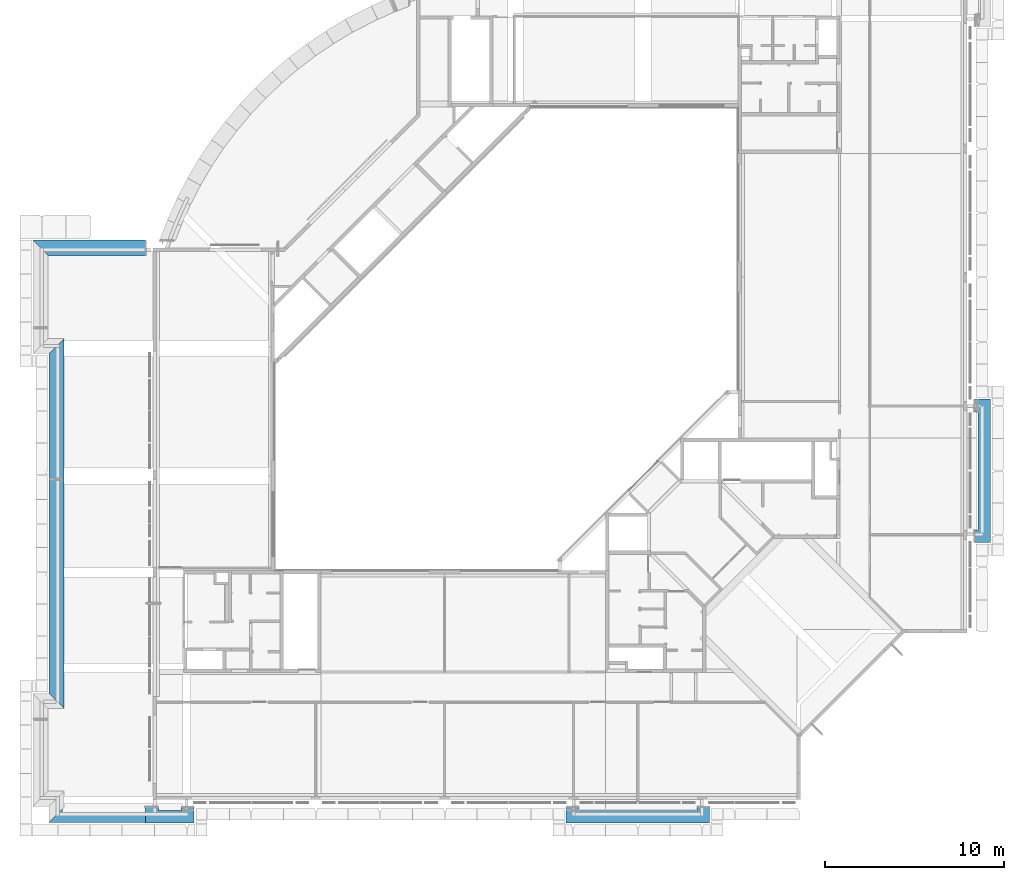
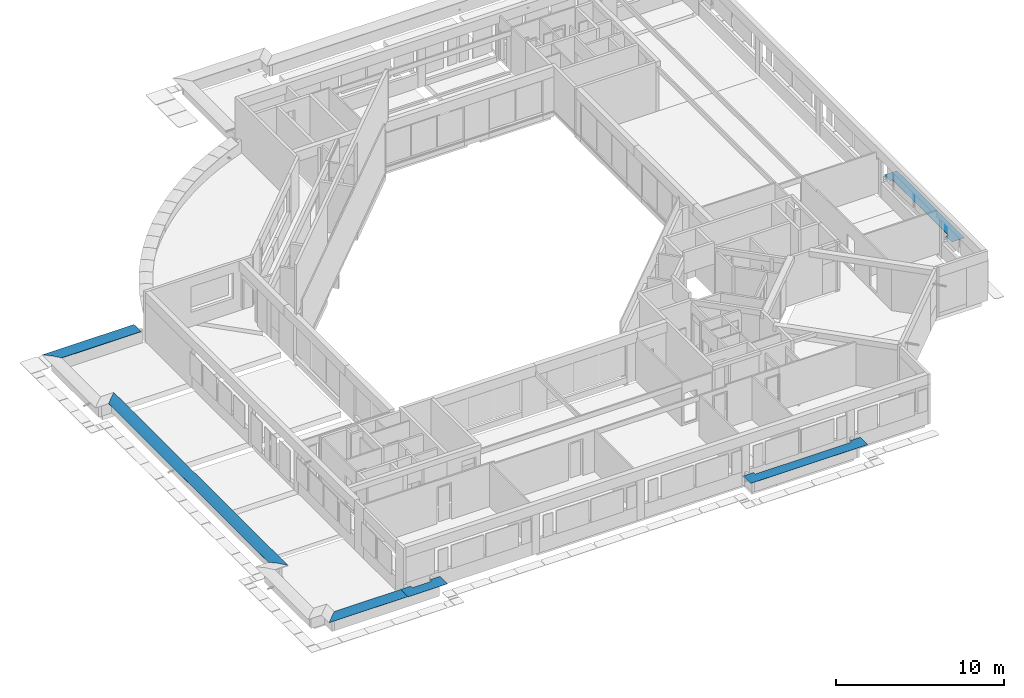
# One storey, part 30 of 38: 6 discrete accessories.
"""IFC4X3_ADD2 building model written with IfcOpenShell, lengths in millimetres."""

import ifcopenshell
import ifcopenshell.guid

model = None  # the IFC model being written
_history = None  # IfcOwnerHistory: only IFC2X3 demands one
_inside = {}  # id of a spatial element -> (the spatial element, [elements in it])
_under = {}  # id of a project, library or spatial element -> (it, [spatial elements below it])
_declared = {}  # id of a project -> (the project, [libraries it declares])
_typed = {}  # id of a type object -> (the type object, [elements of that type])
_made_of = {}  # id of a material, layer set ... -> (it, [elements and type objects made of it])


def new_model(schema):
    """Start an empty IFC model of exactly this schema.

    Asked for "IFC4X3", IfcOpenShell would pick the latest addendum, in which some entities
    have other attributes; the version numbers below select the first issue.
    IFC2X3 requires an IfcOwnerHistory on every rooted entity: one is made here for all.
    """
    global model, _history
    if schema == "IFC4X3":
        model = ifcopenshell.file(schema_version=(4, 3, 0, 0))
    else:
        model = ifcopenshell.file(schema=schema)
    _inside.clear()
    _under.clear()
    _declared.clear()
    _typed.clear()
    _made_of.clear()
    _history = None
    if model.schema == "IFC2X3":
        org = make("IfcOrganization", Name="unknown")
        user = make(
            "IfcPersonAndOrganization",
            ThePerson=make("IfcPerson", FamilyName="unknown"),
            TheOrganization=org,
        )
        app = make(
            "IfcApplication",
            ApplicationDeveloper=org,
            Version="unknown",
            ApplicationFullName="unknown",
            ApplicationIdentifier="unknown",
        )
        _history = make(
            "IfcOwnerHistory",
            OwningUser=user,
            OwningApplication=app,
            ChangeAction="ADDED",
            CreationDate=0,
        )
    return model


def make(cls, **values):
    """One entity of the class cls with the attributes given. An attribute that is None is left unset."""
    return model.create_entity(
        cls, **{name: value for name, value in values.items() if value is not None}
    )


def rooted(cls, **values):
    """An entity with a GlobalId (a new one), such as an element, a storey or a relation."""
    return make(cls, GlobalId=ifcopenshell.guid.new(), OwnerHistory=_history, **values)


def si_unit(unit_type, name, prefix=None):
    """IfcSIUnit, for example si_unit("LENGTHUNIT", "METRE", prefix="MILLI")."""
    return make("IfcSIUnit", UnitType=unit_type, Prefix=prefix, Name=name)


def assignment(units):
    """IfcUnitAssignment: the units of a project."""
    return None if units is None else make("IfcUnitAssignment", Units=units)


def point(xyz):
    """IfcCartesianPoint."""
    return None if xyz is None else make("IfcCartesianPoint", Coordinates=xyz)


def direction(xyz):
    """IfcDirection."""
    return None if xyz is None else make("IfcDirection", DirectionRatios=xyz)


def frame(location, z_axis=None, x_axis=None):
    """IfcAxis2Placement3D, a coordinate frame: its origin and axes. An axis left out is left unset."""
    return make(
        "IfcAxis2Placement3D",
        Location=point(location),
        Axis=direction(z_axis),
        RefDirection=direction(x_axis),
    )


def origin_with_axes():
    """The frame at (0, 0, 0) with the z axis (0, 0, 1) and the x axis (1, 0, 0) written out."""
    return frame((0.0, 0.0, 0.0), z_axis=(0.0, 0.0, 1.0), x_axis=(1.0, 0.0, 0.0))


def place(relative_to, where):
    """IfcLocalPlacement: puts the frame where relative to a parent placement (None: the world)."""
    return make(
        "IfcLocalPlacement", PlacementRelTo=relative_to, RelativePlacement=where
    )


def context(
    kind, dimensions, precision=None, world=None, true_north=None, identifier=None
):
    """IfcGeometricRepresentationContext, for example the 3D "Model" context."""
    return make(
        "IfcGeometricRepresentationContext",
        ContextIdentifier=identifier,
        ContextType=kind,
        CoordinateSpaceDimension=dimensions,
        Precision=precision,
        WorldCoordinateSystem=world,
        TrueNorth=true_north,
    )


def subcontext(parent, identifier, kind, view, scale=None):
    """IfcGeometricRepresentationSubContext, for example "Body" below "Model"."""
    return make(
        "IfcGeometricRepresentationSubContext",
        ContextIdentifier=identifier,
        ContextType=kind,
        ParentContext=parent,
        TargetScale=scale,
        TargetView=view,
    )


def project(units=None, contexts=None):
    """IfcProject with its units and contexts."""
    return rooted(
        "IfcProject",
        Name="project",
        RepresentationContexts=contexts,
        UnitsInContext=assignment(units),
    )


def spatial(cls, under=None, at=None, **own):
    """A site, building, storey or space (cls), placed at a placement, below another one or the project."""
    s = rooted(cls, ObjectPlacement=at, **own)
    if under is not None:
        _under.setdefault(under.id(), (under, []))[1].append(s)
    return s


def point_list(points):
    """IfcCartesianPointList2D or 3D."""
    cls = (
        "IfcCartesianPointList2D" if len(points[0]) == 2 else "IfcCartesianPointList3D"
    )
    return make(cls, CoordList=points)


def polygons(points, faces, closed=None, point_numbers=None):
    """IfcPolygonalFaceSet: a face is its outer loop, then its inner loops; points numbered from 1."""
    made = []
    for loops in faces:
        if len(loops) == 1:
            made.append(make("IfcIndexedPolygonalFace", CoordIndex=loops[0]))
        else:
            made.append(
                make(
                    "IfcIndexedPolygonalFaceWithVoids",
                    CoordIndex=loops[0],
                    InnerCoordIndices=loops[1:],
                )
            )
    return make(
        "IfcPolygonalFaceSet",
        Coordinates=point_list(points),
        Closed=closed,
        Faces=made,
        PnIndex=point_numbers,
    )


def shape(context_of_items, identifier, shape_type, items):
    """IfcShapeRepresentation: the items that make up one representation, for example the "Body"."""
    return make(
        "IfcShapeRepresentation",
        ContextOfItems=context_of_items,
        RepresentationIdentifier=identifier,
        RepresentationType=shape_type,
        Items=items,
    )


def source(mapping_origin, context_of_items, identifier, shape_type, items):
    """IfcRepresentationMap: a shape defined once, which mapped items show again and again."""
    return make(
        "IfcRepresentationMap",
        MappingOrigin=mapping_origin,
        MappedRepresentation=shape(context_of_items, identifier, shape_type, items),
    )


def transform(
    local_origin,
    x_axis=None,
    y_axis=None,
    z_axis=None,
    scale=None,
    scale2=None,
    scale3=None,
    uniform=True,
):
    """IfcCartesianTransformationOperator3D, or its non-uniform kind. x_axis, y_axis, z_axis: its Axis1, 2, 3."""
    if uniform:
        return make(
            "IfcCartesianTransformationOperator3D",
            Axis1=direction(x_axis),
            Axis2=direction(y_axis),
            LocalOrigin=point(local_origin),
            Scale=scale,
            Axis3=direction(z_axis),
        )
    return make(
        "IfcCartesianTransformationOperator3DnonUniform",
        Axis1=direction(x_axis),
        Axis2=direction(y_axis),
        LocalOrigin=point(local_origin),
        Scale=scale,
        Axis3=direction(z_axis),
        Scale2=scale2,
        Scale3=scale3,
    )


def mapped(mapping_source, mapping_target):
    """IfcMappedItem: shows the shape of a source again, moved by a transform."""
    return make(
        "IfcMappedItem", MappingSource=mapping_source, MappingTarget=mapping_target
    )


def material(Name=None, Category=None):
    """IfcMaterial."""
    return make("IfcMaterial", Name=Name, Category=Category)


def made_of(thing, what):
    """Note that an element or type object is made of a material, layer set ...; save() writes the relation."""
    if what is not None:
        _made_of.setdefault(what.id(), (what, []))[1].append(thing)
    return thing


def element(
    cls,
    number,
    at=None,
    inside=None,
    cuts=None,
    type_object=None,
    material=None,
    context=None,
    identifier="Body",
    shape_type=None,
    held_by="IfcProductDefinitionShape",
    body=None,
    shapes=None,
    **own,
):
    """One element of the class cls, such as IfcWall. Its Tag is "e" and its number.

    at: its placement. inside: the storey or other place that contains it. cuts: it is an
    opening in that element (IfcRelVoidsElement). A single representation is given by context,
    identifier, shape_type and body (its items); several are given by shapes. held_by: the class
    of the entity that holds the representations. save() writes the other relations.
    """
    e = rooted(cls, Tag="e%d" % number, ObjectPlacement=at, **own)
    if body is not None:
        shapes = [shape(context, identifier, shape_type, body)]
    if shapes is not None:
        e.Representation = make(held_by, Representations=shapes)
    if inside is not None:
        _inside.setdefault(inside.id(), (inside, []))[1].append(e)
    if cuts is not None:
        rooted(
            "IfcRelVoidsElement", RelatingBuildingElement=cuts, RelatedOpeningElement=e
        )
    if type_object is not None:
        _typed.setdefault(type_object.id(), (type_object, []))[1].append(e)
    return made_of(e, material)


def aggregate(whole, parts):
    """IfcRelAggregates: a whole, such as a stair, and the parts it consists of."""
    return rooted("IfcRelAggregates", RelatingObject=whole, RelatedObjects=parts)


def save(model, path):
    """Write the relations noted so far, then the file.

    IfcRelAggregates (storeys below a building ...), IfcRelContainedInSpatialStructure (elements
    in a storey), IfcRelDefinesByType, IfcRelAssociatesMaterial and IfcRelDeclares: one each for
    every whole, place, type object, material and project.
    """
    for whole, parts in _under.values():
        aggregate(whole, parts)
    for where, things in _inside.values():
        rooted(
            "IfcRelContainedInSpatialStructure",
            RelatedElements=things,
            RelatingStructure=where,
        )
    for kind, things in _typed.values():
        rooted("IfcRelDefinesByType", RelatedObjects=things, RelatingType=kind)
    for what, things in _made_of.values():
        rooted("IfcRelAssociatesMaterial", RelatedObjects=things, RelatingMaterial=what)
    for by, libraries in _declared.values():
        rooted("IfcRelDeclares", RelatingContext=by, RelatedDefinitions=libraries)
    model.write(path)


model = new_model("IFC4X3_ADD2")

# Units and contexts
model_context = context("Model", 3, precision=1e-05, world=origin_with_axes(), true_north=direction((0.0, 1.0)))
body_context = subcontext(model_context, "Body", "Model", "MODEL_VIEW")
ifc_project = project(units=[si_unit("LENGTHUNIT", "METRE", prefix="MILLI"), si_unit("AREAUNIT", "SQUARE_METRE"), si_unit("VOLUMEUNIT", "CUBIC_METRE"), si_unit("PLANEANGLEUNIT", "RADIAN"), si_unit("TIMEUNIT", "SECOND"), si_unit("MASSUNIT", "GRAM")], contexts=[model_context])

# Site, building, storey
site_placement = place(None, origin_with_axes())
site = spatial("IfcSite", under=ifc_project, at=site_placement, Name="Site", CompositionType="ELEMENT")
building_placement = place(site_placement, origin_with_axes())
building = spatial("IfcBuilding", under=site, at=building_placement, Name="IFC Building Story")
storey_placement = place(building_placement, frame((0.0, 0.0, 10800.0), z_axis=(0.0, 0.0, 1.0), x_axis=(1.0, 0.0, 0.0)))
storey = spatial("IfcBuildingStorey", under=building, at=storey_placement, Name="030", Elevation=10800.0)

# Discrete accessories
ifc_material = material(Name="BB_Metaal_Aluminium_Buitenschrijnwerk")
shared_shape_1 = source(origin_with_axes(), body_context, "Body", "Tessellation", [
    polygons([(-374.999999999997, -374.999999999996, 35.1750423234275), (-797.999999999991, -797.999999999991, -1.832662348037), (-797.999999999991, -797.999999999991, -25.1715728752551), (-791.414213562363, -791.414213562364, -18.5857864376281), (-789.99999999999, -789.999999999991, -20.0000000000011), (-799.999999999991, -799.999999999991, -30.0000000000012), (-799.999999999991, -799.999999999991, -2.8523960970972e-12), (-374.999999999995, -374.999999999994, 37.1826819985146), (50.0000000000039, 50.0000000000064, -2.87523752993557e-12), (30.0000000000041, 30.0000000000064, -30.0000000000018), (30.0000000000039, 30.0000000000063, -20.0000000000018), (32.0000000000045, 32.0000000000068, -20.0000000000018), (32.0000000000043, 32.0000000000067, -23.3944487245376), (46.4641064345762, 46.4641064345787, -1.69828907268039), (19033.5358935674, 46.4641064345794, -1.69828907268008), (19048.0000000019, 32.0000000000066, -23.3944487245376), (19048.0000000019, 32.0000000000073, -20.0000000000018), (19050.0000000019, 30.0000000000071, -20.0000000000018), (19050.0000000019, 30.0000000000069, -30.0000000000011), (19030.000000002, 50.0000000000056, -3.06354965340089e-12), (19455.0000000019, -374.999999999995, 37.1826819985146), (19880.0000000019, -799.999999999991, -2.78471690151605e-12), (19880.0000000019, -799.999999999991, -30.0), (19870.0000000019, -789.999999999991, -20.0000000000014), (19871.4142135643, -791.414213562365, -18.5857864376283), (19878.0000000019, -797.999999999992, -25.1715728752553), (19878.0000000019, -797.999999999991, -1.83266234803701), (19455.0000000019, -374.999999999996, 35.1750423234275)], [[[3, 4, 5]], [[3, 5, 6]], [[6, 7, 2]], [[6, 2, 3]], [[7, 8, 1]], [[7, 1, 2]], [[14, 1, 8]], [[14, 8, 9]], [[9, 10, 13]], [[9, 13, 14]], [[10, 11, 13]], [[11, 12, 13]], [[16, 17, 18]], [[16, 18, 19]], [[19, 20, 15]], [[19, 15, 16]], [[28, 15, 20]], [[28, 20, 21]], [[21, 22, 27]], [[21, 27, 28]], [[22, 23, 26]], [[22, 26, 27]], [[23, 24, 25]], [[23, 25, 26]], [[14, 15, 28, 1]], [[12, 17, 16, 13]], [[13, 16, 15, 14]], [[10, 19, 18, 11]], [[8, 21, 20, 9]], [[9, 20, 19, 10]], [[7, 22, 21, 8]], [[11, 18, 17, 12]], [[1, 28, 27, 2]], [[6, 23, 22, 7]], [[5, 24, 23, 6]], [[4, 25, 24, 5]], [[3, 26, 25, 4]], [[2, 27, 26, 3]]]),
])
discrete_accessory_1_placement = place(storey_placement, frame((-51150.0, 5790.0, 830.0), z_axis=(0.0, 0.0, 1.0), x_axis=(0.0, 1.0, 0.0)))
element("IfcDiscreteAccessory", 1, at=discrete_accessory_1_placement, inside=storey, material=ifc_material, Name="BB_05.10.23#02_AluminiumMuurafdek, 850 mm_GLI:XX_Geen", ObjectType="BB_05.10.23#02_AluminiumMuurafdek, 850 mm_GLI:XX_Geen", PredefinedType="USERDEFINED", context=body_context, shape_type="MappedRepresentation", body=[
    mapped(shared_shape_1, transform((0.0, 0.0, 0.0))),
])
shared_shape_2 = source(origin_with_axes(), body_context, "Body", "Tessellation", [
    polygons([(5390.0, 799.999999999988, 0.0), (5390.0, -50.0, -2.52086804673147e-12), (5370.0, -30.0000000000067, -30.0), (5370.0, 779.999999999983, -30.0), (4965.00000000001, 374.999999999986, 37.1826819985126), (5386.46410643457, 796.464106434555, -1.6982890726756), (5386.46410643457, -46.4641064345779, -1.69828907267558), (4965.00000000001, 374.999999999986, 35.1750423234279), (5372.0, 781.999999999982, -23.3944487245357), (5372.0, -32.0000000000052, -23.3944487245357), (5372.0, 781.999999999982, -19.895184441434), (5372.0, -32.000000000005, -19.895184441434), (5370.0, 779.999999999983, -19.895184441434), (5370.0, -30.000000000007, -19.895184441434)], [[[1, 2, 3, 4]], [[2, 1, 5]], [[6, 7, 8]], [[7, 6, 9, 10]], [[10, 9, 11, 12]], [[12, 11, 13, 14]], [[4, 3, 14, 13]], [[10, 12, 14]], [[10, 14, 3]], [[3, 2, 7]], [[3, 7, 10]], [[2, 5, 8]], [[2, 8, 7]], [[6, 8, 5]], [[6, 5, 1]], [[1, 4, 9]], [[1, 9, 6]], [[4, 13, 9]], [[13, 11, 9]]]),
    polygons([(5390.0, -50.0000000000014, 0.0), (-1.08286712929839e-12, -50.0000000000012, 0.0), (19.9999999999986, -30.0000000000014, -30.0), (5370.0, -30.0000000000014, -30.0), (4964.99999999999, 375.0, 37.1826819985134), (425.000000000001, 375.0, 37.1826819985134), (3.53589356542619, -46.4641064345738, -1.69828907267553), (425.000000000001, 375.0, 35.1750423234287), (4964.99999999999, 375.0, 35.1750423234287), (5386.46410643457, -46.4641064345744, -1.69828907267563), (17.9999999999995, -32.0, -23.3944487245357), (5372.0, -32.0, -23.3944487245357), (17.9999999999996, -32.0, -19.895184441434), (5372.0, -32.0, -19.895184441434), (19.9999999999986, -30.0000000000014, -19.895184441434), (5370.0, -30.0000000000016, -19.895184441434)], [[[1, 2, 3, 4]], [[2, 1, 5, 6]], [[7, 8, 9, 10]], [[11, 7, 10, 12]], [[13, 11, 12, 14]], [[15, 13, 14, 16]], [[3, 15, 16, 4]], [[11, 13, 15]], [[11, 15, 3]], [[3, 2, 7]], [[3, 7, 11]], [[2, 6, 8]], [[2, 8, 7]], [[10, 9, 5]], [[10, 5, 1]], [[1, 4, 12]], [[1, 12, 10]], [[4, 16, 12]], [[16, 14, 12]], [[8, 6, 5, 9]]]),
    polygons([(425.000000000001, 375.0, 37.1826819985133), (850.000000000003, 800.000000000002, 0.0), (850.000000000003, 800.000000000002, -30.0), (840.000000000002, 790.000000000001, -20.0), (841.414213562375, 791.414213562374, -18.5857864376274), (848.000000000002, 798.000000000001, -25.1715728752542), (848.000000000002, 798.000000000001, -1.83266234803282), (425.000000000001, 375.0, 35.1750423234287), (5390.00000000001, 799.999999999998, 0.0), (4965.00000000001, 374.999999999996, 37.1826819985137), (5388.00000000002, 798.000000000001, -1.8326623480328), (4965.00000000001, 374.999999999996, 35.1750423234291), (5388.00000000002, 798.000000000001, -25.171572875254), (5381.4142135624, 791.414213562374, -18.5857864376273), (5380.00000000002, 790.000000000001, -20.0), (5390.00000000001, 799.999999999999, -29.9999999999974)], [[[7, 8, 1]], [[7, 1, 2]], [[2, 3, 6]], [[2, 6, 7]], [[3, 4, 5]], [[3, 5, 6]], [[9, 2, 1, 10]], [[8, 7, 11, 12]], [[13, 14, 15]], [[13, 15, 16]], [[16, 9, 11]], [[16, 11, 13]], [[9, 10, 12]], [[9, 12, 11]], [[7, 6, 13, 11]], [[6, 5, 14, 13]], [[5, 4, 15, 14]], [[3, 16, 15, 4]], [[2, 9, 16, 3]], [[1, 8, 12, 10]]]),
])
discrete_accessory_2_placement = place(storey_placement, frame((-51200.0, -1320.0, 830.0), z_axis=(0.0, 0.0, 1.0), x_axis=(1.0, 0.0, 0.0)))
element("IfcDiscreteAccessory", 2, at=discrete_accessory_2_placement, inside=storey, material=ifc_material, Name="BB_05.10.23#02_AluminiumMuurafdek eindstuk, 850 mm_GMO:XX_Geen", ObjectType="BB_05.10.23#02_AluminiumMuurafdek eindstuk, 850 mm_GMO:XX_Geen", PredefinedType="USERDEFINED", context=body_context, shape_type="MappedRepresentation", body=[
    mapped(shared_shape_2, transform((0.0, 0.0, 0.0))),
])
shared_shape_3 = source(origin_with_axes(), body_context, "Body", "Tessellation", [
    polygons([(6279.99999999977, -799.999999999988, 0.0), (6259.99999999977, -779.999999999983, -30.0), (6259.99999999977, 30.0000000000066, -30.0), (6279.99999999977, 50.0, -2.46728868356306e-12), (5854.99999999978, -374.999999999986, 37.1826819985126), (6276.46410643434, -796.464106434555, -1.69828907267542), (5854.99999999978, -374.999999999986, 35.1750423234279), (6276.46410643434, 46.4641064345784, -1.69828907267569), (6261.99999999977, 32.0000000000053, -23.3944487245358), (6261.99999999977, -781.999999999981, -23.3944487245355), (6261.99999999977, 32.0000000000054, -19.895184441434), (6261.99999999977, -781.999999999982, -19.895184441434), (6259.99999999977, 30.000000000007, -19.895184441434), (6259.99999999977, -779.999999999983, -19.895184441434)], [[[1, 2, 3, 4]], [[4, 5, 1]], [[6, 7, 8]], [[8, 9, 10, 6]], [[9, 11, 12, 10]], [[11, 13, 14, 12]], [[2, 14, 13, 3]], [[8, 7, 5]], [[8, 5, 4]], [[4, 3, 9]], [[4, 9, 8]], [[3, 13, 9]], [[13, 11, 9]], [[10, 12, 14]], [[10, 14, 2]], [[2, 1, 6]], [[2, 6, 10]], [[1, 5, 7]], [[1, 7, 6]]]),
    polygons([(6279.99999999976, 50.0000000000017, 0.0), (6259.99999999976, 30.0000000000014, -30.0), (19.9999999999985, 30.0000000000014, -30.0), (-1.21822552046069e-12, 50.0000000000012, 0.0), (425.000000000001, -375.0, 37.1826819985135), (5854.99999999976, -375.0, 37.1826819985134), (3.53589356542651, 46.4641064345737, -1.69828907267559), (6276.46410643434, 46.464106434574, -1.6982890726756), (5854.99999999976, -375.0, 35.1750423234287), (425.000000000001, -375.0, 35.1750423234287), (17.9999999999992, 32.0, -23.3944487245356), (6261.99999999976, 32.0, -23.3944487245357), (17.9999999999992, 32.0, -19.895184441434), (6261.99999999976, 32.0, -19.895184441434), (19.9999999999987, 30.0000000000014, -19.895184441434), (6259.99999999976, 30.0000000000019, -19.895184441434)], [[[1, 2, 3, 4]], [[4, 5, 6, 1]], [[7, 8, 9, 10]], [[11, 12, 8, 7]], [[13, 14, 12, 11]], [[15, 16, 14, 13]], [[3, 2, 16, 15]], [[7, 10, 5]], [[7, 5, 4]], [[4, 3, 11]], [[4, 11, 7]], [[3, 15, 11]], [[15, 13, 11]], [[12, 14, 16]], [[12, 16, 2]], [[2, 1, 8]], [[2, 8, 12]], [[1, 6, 9]], [[1, 9, 8]], [[10, 9, 6, 5]]]),
    polygons([(425.000000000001, -375.0, 37.1826819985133), (425.000000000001, -375.0, 35.1750423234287), (848.000000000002, -798.000000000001, -1.83266234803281), (848.000000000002, -798.000000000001, -25.1715728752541), (841.414213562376, -791.414213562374, -18.5857864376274), (840.000000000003, -790.000000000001, -20.0), (850.000000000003, -800.000000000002, -29.9999999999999), (850.000000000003, -800.000000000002, 0.0), (6279.99999999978, -799.999999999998, 0.0), (5854.99999999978, -374.999999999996, 37.1826819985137), (5854.99999999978, -374.999999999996, 35.1750423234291), (6277.99999999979, -798.000000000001, -1.8326623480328), (6279.99999999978, -799.999999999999, -29.9999999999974), (6269.99999999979, -790.000000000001, -20.0), (6271.41421356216, -791.414213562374, -18.5857864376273), (6277.99999999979, -798.000000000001, -25.171572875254)], [[[4, 5, 6]], [[4, 6, 7]], [[7, 8, 3]], [[7, 3, 4]], [[8, 1, 2]], [[8, 2, 3]], [[9, 10, 1, 8]], [[2, 11, 12, 3]], [[12, 11, 10]], [[12, 10, 9]], [[9, 13, 16]], [[9, 16, 12]], [[13, 14, 15]], [[13, 15, 16]], [[3, 12, 16, 4]], [[4, 16, 15, 5]], [[5, 15, 14, 6]], [[7, 6, 14, 13]], [[8, 7, 13, 9]], [[1, 10, 11, 2]]]),
])
discrete_accessory_3_placement = place(storey_placement, frame((-52090.0, 31110.0, 830.0), z_axis=(0.0, 0.0, 1.0), x_axis=(1.0, 0.0, 0.0)))
element("IfcDiscreteAccessory", 3, at=discrete_accessory_3_placement, inside=storey, material=ifc_material, Name="BB_05.10.23#02_AluminiumMuurafdek eindstuk, 850 mm_GMO:XX_Geen", ObjectType="BB_05.10.23#02_AluminiumMuurafdek eindstuk, 850 mm_GMO:XX_Geen", PredefinedType="USERDEFINED", context=body_context, shape_type="MappedRepresentation", body=[
    mapped(shared_shape_3, transform((0.0, 0.0, 0.0))),
])
shared_shape_4 = source(origin_with_axes(), body_context, "Body", "Tessellation", [
    polygons([(2008.53589356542, 828.964106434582, -1.69828907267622), (2357.5, 480.000000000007, 28.8321142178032), (2357.49999999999, 302.500000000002, 28.8321142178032), (2008.53589356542, 302.500000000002, -1.69828907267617), (2022.99999999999, 814.500000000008, -23.3944487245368), (2022.99999999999, 302.500000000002, -23.3944487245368), (2022.99999999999, 814.500000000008, -19.8951844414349), (2022.99999999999, 302.500000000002, -19.8951844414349), (2024.99999999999, 812.500000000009, -19.8951844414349), (2690.0, 812.500000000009, -19.8951844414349), (2690.0, -30.000000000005, -19.8951844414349), (2692.0, -32.000000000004, -19.8951844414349), (2692.0, 814.500000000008, -19.8951844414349), (2024.99999999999, 302.500000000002, -19.8951844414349), (2024.99999999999, 812.500000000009, -30.0), (2024.99999999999, 302.500000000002, -30.0), (2005.0, 832.500000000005, 0.0), (2005.0, 302.500000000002, 0.0), (2357.5, 480.000000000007, 30.8397538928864), (2357.49999999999, 302.500000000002, 30.8397538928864), (2706.46410643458, 828.964106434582, -1.69828907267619), (2692.0, 814.500000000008, -23.3944487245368), (2690.0, 812.500000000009, -30.0), (2710.0, 832.500000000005, 0.0), (2706.46410643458, -46.4641064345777, -1.6982890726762), (2357.5, 302.5, 28.8321142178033), (2692.0, -32.0000000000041, -23.3944487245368), (2690.0, -30.000000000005, -30.0), (2710.0, -49.9999999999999, 0.0), (2357.5, 302.5, 30.8397538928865)], [[[1, 2, 3, 4]], [[5, 1, 4, 6]], [[7, 5, 6, 8]], [[10, 11, 12]], [[10, 12, 13]], [[13, 7, 9]], [[13, 9, 10]], [[7, 8, 14]], [[7, 14, 9]], [[15, 9, 14, 16]], [[17, 15, 16, 18]], [[19, 17, 18, 20]], [[2, 19, 20, 3]], [[2, 1, 21]], [[1, 5, 22, 21]], [[5, 7, 13, 22]], [[10, 9, 15, 23]], [[15, 17, 24, 23]], [[17, 19, 24]], [[2, 21, 25, 26]], [[21, 22, 27, 25]], [[22, 13, 12, 27]], [[10, 23, 28, 11]], [[23, 24, 29, 28]], [[24, 19, 30, 29]], [[19, 2, 26, 30]], [[4, 3, 20]], [[4, 20, 18]], [[6, 4, 18]], [[6, 18, 16]], [[16, 14, 6]], [[14, 8, 6]], [[27, 12, 11]], [[27, 11, 28]], [[28, 29, 25]], [[28, 25, 27]], [[29, 30, 26]], [[29, 26, 25]]]),
    polygons([(352.500000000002, 480.000000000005, 28.8321142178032), (701.46410643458, 828.964106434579, -1.69828907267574), (701.46410643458, 302.500000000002, -1.69828907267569), (352.500000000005, 302.500000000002, 28.8321142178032), (687.000000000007, 814.500000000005, -23.3944487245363), (687.000000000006, 302.500000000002, -23.3944487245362), (687.000000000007, 814.500000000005, -19.8951844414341), (687.000000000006, 302.500000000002, -19.8951844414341), (17.9999999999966, 814.500000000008, -19.8951844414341), (17.9999999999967, -32.0000000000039, -19.8951844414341), (19.9999999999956, -30.000000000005, -19.8951844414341), (19.9999999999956, 812.500000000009, -19.8951844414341), (685.000000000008, 812.500000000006, -19.8951844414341), (685.000000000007, 302.500000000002, -19.8951844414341), (685.000000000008, 812.500000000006, -30.0), (685.000000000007, 302.500000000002, -30.0), (705.000000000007, 832.500000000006, 0.0), (705.000000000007, 302.500000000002, 0.0), (352.500000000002, 480.000000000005, 30.8397538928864), (352.500000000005, 302.500000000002, 30.8397538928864), (3.53589356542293, 828.964106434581, -1.69828907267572), (17.9999999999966, 814.500000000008, -23.3944487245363), (19.9999999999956, 812.500000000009, -30.0), (-4.15381062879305e-12, 832.500000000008, 0.0), (352.499999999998, 302.5, 28.8321142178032), (3.53589356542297, -46.4641064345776, -1.69828907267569), (17.9999999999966, -32.000000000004, -23.3944487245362), (19.9999999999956, -30.0000000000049, -30.0), (0.0, -50.0, -2.38521705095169e-12), (352.499999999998, 302.5, 30.8397538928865)], [[[1, 2, 3, 4]], [[2, 5, 6, 3]], [[5, 7, 8, 6]], [[13, 14, 8]], [[13, 8, 7]], [[7, 9, 12]], [[7, 12, 13]], [[9, 10, 11]], [[9, 11, 12]], [[13, 15, 16, 14]], [[15, 17, 18, 16]], [[17, 19, 20, 18]], [[19, 1, 4, 20]], [[2, 1, 21]], [[5, 2, 21, 22]], [[7, 5, 22, 9]], [[13, 12, 23, 15]], [[17, 15, 23, 24]], [[19, 17, 24]], [[21, 1, 25, 26]], [[22, 21, 26, 27]], [[9, 22, 27, 10]], [[23, 12, 11, 28]], [[24, 23, 28, 29]], [[19, 24, 29, 30]], [[1, 19, 30, 25]], [[6, 8, 14]], [[6, 14, 16]], [[16, 18, 3]], [[16, 3, 6]], [[18, 20, 4]], [[18, 4, 3]], [[26, 25, 30]], [[26, 30, 29]], [[29, 28, 27]], [[29, 27, 26]], [[28, 11, 27]], [[11, 10, 27]]]),
    polygons([(705.075931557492, 655.000000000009, 0.0), (352.537965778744, 302.500000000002, 30.8397538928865), (2357.5, 302.500000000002, 30.8397538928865), (2004.99999999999, 655.000000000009, 0.0), (0.0, -50.0000000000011, 0.0), (2710.0, -50.000000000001, 0.0), (20.0021540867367, -30.0000000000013, -30.0), (2690.0, -30.0000000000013, -30.0), (20.0021540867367, -30.0000000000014, -19.8951844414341), (2690.0, -30.0000000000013, -19.8951844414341), (18.0019386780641, -32.0, -19.8951844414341), (2692.0, -32.0, -19.8951844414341), (18.0019386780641, -32.0, -23.3944487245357), (2692.0, -32.0, -23.3944487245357), (3.53627439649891, -46.4641064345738, -1.69828907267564), (2706.46410643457, -46.4641064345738, -1.69828907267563), (352.537965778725, 302.499999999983, 28.8321142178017), (2357.50000000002, 302.499999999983, 28.8321142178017), (703.075716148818, 653.000000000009, -1.83266234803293), (2006.99999999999, 653.000000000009, -1.83266234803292), (703.075716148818, 653.000000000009, -25.066757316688), (2006.99999999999, 653.000000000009, -25.0667573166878), (696.489220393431, 646.414213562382, -18.480970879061), (2013.58578643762, 646.414213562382, -18.4809708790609), (695.074854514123, 645.000000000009, -19.8951844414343), (2014.99999999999, 645.000000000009, -19.8951844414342), (705.075931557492, 655.000000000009, -29.8951844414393), (2004.99999999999, 655.000000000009, -29.8951844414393)], [[[1, 2, 3, 4]], [[5, 6, 3, 2]], [[6, 5, 7, 8]], [[7, 9, 10, 8]], [[9, 11, 12, 10]], [[11, 13, 14, 12]], [[13, 15, 16, 14]], [[15, 17, 18, 16]], [[17, 19, 20, 18]], [[19, 21, 22, 20]], [[21, 23, 24, 22]], [[23, 25, 26, 24]], [[25, 27, 28, 26]], [[27, 1, 4, 28]], [[13, 11, 9]], [[13, 9, 7]], [[7, 5, 15]], [[7, 15, 13]], [[5, 2, 17]], [[5, 17, 15]], [[2, 1, 19]], [[2, 19, 17]], [[1, 27, 21]], [[1, 21, 19]], [[27, 25, 23]], [[27, 23, 21]], [[22, 24, 26]], [[22, 26, 28]], [[28, 4, 20]], [[28, 20, 22]], [[4, 3, 18]], [[4, 18, 20]], [[3, 6, 16]], [[3, 16, 18]], [[6, 8, 14]], [[6, 14, 16]], [[8, 10, 14]], [[10, 12, 14]]]),
])
discrete_accessory_4_placement = place(storey_placement, frame((-45800.0, -1350.0, 830.0), z_axis=(0.0, 0.0, 1.0), x_axis=(1.0, 0.0, 0.0)))
element("IfcDiscreteAccessory", 4, at=discrete_accessory_4_placement, inside=storey, material=ifc_material, Name="BB_05.10.23#01_AluminiumMuurafdek U-vorm_GMO:XX_Geen", ObjectType="BB_05.10.23#01_AluminiumMuurafdek U-vorm_GMO:XX_Geen", PredefinedType="USERDEFINED", context=body_context, shape_type="MappedRepresentation", body=[
    mapped(shared_shape_4, transform((0.0, 0.0, 0.0))),
])
shared_shape_5 = source(origin_with_axes(), body_context, "Body", "Tessellation", [
    polygons([(7318.53589356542, 828.964106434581, -1.69828907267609), (7667.5, 480.000000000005, 28.8321142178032), (7667.49999999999, 302.500000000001, 28.8321142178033), (7318.53589356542, 302.500000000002, -1.69828907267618), (7332.99999999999, 814.500000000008, -23.3944487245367), (7332.99999999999, 302.500000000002, -23.3944487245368), (7332.99999999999, 814.500000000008, -19.8951844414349), (7332.99999999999, 302.500000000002, -19.8951844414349), (7334.99999999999, 812.500000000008, -19.8951844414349), (8000.0, 812.500000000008, -19.8951844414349), (8000.0, -30.0000000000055, -19.8951844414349), (8002.0, -32.0000000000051, -19.8951844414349), (8002.0, 814.500000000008, -19.8951844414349), (7334.99999999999, 302.500000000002, -19.8951844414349), (7334.99999999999, 812.500000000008, -30.0), (7334.99999999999, 302.500000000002, -30.0), (7315.0, 832.500000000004, 0.0), (7315.0, 302.500000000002, 0.0), (7667.5, 480.000000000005, 30.8397538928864), (7667.49999999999, 302.500000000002, 30.8397538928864), (8016.46410643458, 828.964106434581, -1.69828907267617), (8002.0, 814.500000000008, -23.3944487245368), (8000.0, 812.500000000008, -30.0), (8020.0, 832.500000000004, 0.0), (8016.46410643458, -46.4641064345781, -1.69828907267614), (7667.5, 302.5, 28.8321142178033), (8002.0, -32.0000000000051, -23.3944487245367), (8000.0, -30.0000000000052, -30.0), (8020.0, -49.9999999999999, 0.0), (7667.5, 302.5, 30.8397538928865)], [[[1, 2, 3, 4]], [[5, 1, 4, 6]], [[7, 5, 6, 8]], [[10, 11, 12]], [[10, 12, 13]], [[13, 7, 9]], [[13, 9, 10]], [[7, 8, 14]], [[7, 14, 9]], [[15, 9, 14, 16]], [[17, 15, 16, 18]], [[19, 17, 18, 20]], [[2, 19, 20, 3]], [[2, 1, 21]], [[1, 5, 22, 21]], [[5, 7, 13, 22]], [[10, 9, 15, 23]], [[15, 17, 24, 23]], [[17, 19, 24]], [[2, 21, 25, 26]], [[21, 22, 27, 25]], [[22, 13, 12, 27]], [[10, 23, 28, 11]], [[23, 24, 29, 28]], [[24, 19, 30, 29]], [[19, 2, 26, 30]], [[4, 3, 20]], [[4, 20, 18]], [[6, 4, 18]], [[6, 18, 16]], [[16, 14, 6]], [[14, 8, 6]], [[27, 12, 11]], [[27, 11, 28]], [[28, 29, 25]], [[28, 25, 27]], [[29, 30, 26]], [[29, 26, 25]]]),
    polygons([(352.500000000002, 480.000000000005, 28.8321142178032), (701.46410643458, 828.964106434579, -1.69828907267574), (701.46410643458, 302.500000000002, -1.69828907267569), (352.500000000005, 302.500000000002, 28.8321142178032), (687.000000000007, 814.500000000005, -23.3944487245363), (687.000000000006, 302.500000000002, -23.3944487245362), (687.000000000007, 814.500000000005, -19.8951844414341), (687.000000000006, 302.500000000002, -19.8951844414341), (17.9999999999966, 814.500000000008, -19.8951844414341), (17.9999999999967, -32.0000000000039, -19.8951844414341), (19.9999999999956, -30.000000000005, -19.8951844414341), (19.9999999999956, 812.500000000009, -19.8951844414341), (685.000000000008, 812.500000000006, -19.8951844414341), (685.000000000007, 302.500000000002, -19.8951844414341), (685.000000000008, 812.500000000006, -30.0), (685.000000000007, 302.500000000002, -30.0), (705.000000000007, 832.500000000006, 0.0), (705.000000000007, 302.500000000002, 0.0), (352.500000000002, 480.000000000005, 30.8397538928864), (352.500000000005, 302.500000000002, 30.8397538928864), (3.53589356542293, 828.964106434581, -1.69828907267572), (17.9999999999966, 814.500000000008, -23.3944487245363), (19.9999999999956, 812.500000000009, -30.0), (-4.15381062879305e-12, 832.500000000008, 0.0), (352.499999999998, 302.5, 28.8321142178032), (3.53589356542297, -46.4641064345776, -1.69828907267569), (17.9999999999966, -32.000000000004, -23.3944487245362), (19.9999999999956, -30.0000000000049, -30.0), (0.0, -50.0, -2.38521705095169e-12), (352.499999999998, 302.5, 30.8397538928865)], [[[1, 2, 3, 4]], [[2, 5, 6, 3]], [[5, 7, 8, 6]], [[13, 14, 8]], [[13, 8, 7]], [[7, 9, 12]], [[7, 12, 13]], [[9, 10, 11]], [[9, 11, 12]], [[13, 15, 16, 14]], [[15, 17, 18, 16]], [[17, 19, 20, 18]], [[19, 1, 4, 20]], [[2, 1, 21]], [[5, 2, 21, 22]], [[7, 5, 22, 9]], [[13, 12, 23, 15]], [[17, 15, 23, 24]], [[19, 17, 24]], [[21, 1, 25, 26]], [[22, 21, 26, 27]], [[9, 22, 27, 10]], [[23, 12, 11, 28]], [[24, 23, 28, 29]], [[19, 24, 29, 30]], [[1, 19, 30, 25]], [[6, 8, 14]], [[6, 14, 16]], [[16, 18, 3]], [[16, 3, 6]], [[18, 20, 4]], [[18, 4, 3]], [[26, 25, 30]], [[26, 30, 29]], [[29, 28, 27]], [[29, 27, 26]], [[28, 11, 27]], [[11, 10, 27]]]),
    polygons([(705.075931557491, 655.000000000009, 0.0), (352.537965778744, 302.500000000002, 30.8397538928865), (7667.49999999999, 302.500000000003, 30.8397538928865), (7314.99999999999, 655.000000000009, 0.0), (0.0, -50.0000000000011, 0.0), (8020.0, -50.0, 0.0), (20.002154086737, -30.0000000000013, -30.0), (8000.0, -30.0000000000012, -30.0), (20.002154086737, -30.0000000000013, -19.8951844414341), (8000.0, -30.0000000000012, -19.8951844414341), (18.0019386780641, -32.0, -19.8951844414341), (8002.0, -32.0, -19.8951844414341), (18.0019386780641, -32.0, -23.3944487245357), (8002.0, -32.0, -23.3944487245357), (3.53627439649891, -46.4641064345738, -1.69828907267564), (8016.46410643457, -46.4641064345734, -1.69828907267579), (352.537965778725, 302.499999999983, 28.8321142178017), (7667.50000000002, 302.499999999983, 28.8321142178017), (703.075716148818, 653.000000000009, -1.83266234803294), (7316.99999999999, 653.000000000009, -1.83266234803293), (703.075716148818, 653.000000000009, -25.066757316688), (7316.99999999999, 653.000000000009, -25.066757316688), (696.489220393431, 646.414213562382, -18.480970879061), (7323.58578643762, 646.414213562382, -18.480970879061), (695.074854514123, 645.000000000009, -19.8951844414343), (7324.99999999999, 645.000000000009, -19.8951844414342), (705.075931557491, 655.000000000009, -29.8951844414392), (7314.99999999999, 655.000000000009, -29.8951844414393)], [[[1, 2, 3, 4]], [[5, 6, 3, 2]], [[6, 5, 7, 8]], [[7, 9, 10, 8]], [[9, 11, 12, 10]], [[11, 13, 14, 12]], [[13, 15, 16, 14]], [[15, 17, 18, 16]], [[17, 19, 20, 18]], [[19, 21, 22, 20]], [[21, 23, 24, 22]], [[23, 25, 26, 24]], [[25, 27, 28, 26]], [[27, 1, 4, 28]], [[13, 11, 9]], [[13, 9, 7]], [[7, 5, 15]], [[7, 15, 13]], [[5, 2, 17]], [[5, 17, 15]], [[2, 1, 19]], [[2, 19, 17]], [[1, 27, 21]], [[1, 21, 19]], [[27, 25, 23]], [[27, 23, 21]], [[22, 24, 26]], [[22, 26, 28]], [[28, 4, 20]], [[28, 20, 22]], [[4, 3, 18]], [[4, 18, 20]], [[3, 6, 16]], [[3, 16, 18]], [[6, 8, 14]], [[6, 14, 16]], [[8, 10, 14]], [[10, 12, 14]]]),
])
discrete_accessory_5_placement = place(storey_placement, frame((-22310.0, -1350.0, 830.0), z_axis=(0.0, 0.0, 1.0), x_axis=(1.0, 0.0, 0.0)))
element("IfcDiscreteAccessory", 5, at=discrete_accessory_5_placement, inside=storey, material=ifc_material, Name="BB_05.10.23#01_AluminiumMuurafdek U-vorm_GMO:XX_Geen", ObjectType="BB_05.10.23#01_AluminiumMuurafdek U-vorm_GMO:XX_Geen", PredefinedType="USERDEFINED", context=body_context, shape_type="MappedRepresentation", body=[
    mapped(shared_shape_5, transform((0.0, 0.0, 0.0))),
])
shared_shape_6 = source(origin_with_axes(), body_context, "Body", "Tessellation", [
    polygons([(7318.53589356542, -828.964106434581, -1.69828907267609), (7318.53589356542, -302.500000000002, -1.69828907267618), (7667.5, -302.500000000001, 28.8321142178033), (7667.5, -480.000000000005, 28.8321142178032), (7332.99999999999, -814.500000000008, -23.3944487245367), (7332.99999999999, -302.500000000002, -23.3944487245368), (7332.99999999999, -814.500000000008, -19.8951844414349), (7332.99999999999, -302.500000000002, -19.8951844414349), (7334.99999999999, -812.500000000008, -19.8951844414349), (7334.99999999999, -302.500000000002, -19.8951844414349), (8002.0, -814.500000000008, -19.8951844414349), (8002.0, 32.0000000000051, -19.8951844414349), (8000.0, 30.0000000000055, -19.8951844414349), (8000.0, -812.500000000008, -19.8951844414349), (7334.99999999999, -812.500000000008, -30.0), (7334.99999999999, -302.500000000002, -30.0), (7315.0, -832.500000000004, 0.0), (7315.0, -302.500000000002, 0.0), (7667.5, -480.000000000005, 30.8397538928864), (7667.49999999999, -302.500000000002, 30.8397538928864), (8016.46410643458, -828.964106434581, -1.69828907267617), (8002.0, -814.500000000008, -23.3944487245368), (8000.0, -812.500000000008, -30.0), (8020.0, -832.500000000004, 0.0), (7667.5, -302.5, 28.8321142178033), (8016.46410643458, 46.4641064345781, -1.69828907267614), (8002.0, 32.0000000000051, -23.3944487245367), (8000.0, 30.0000000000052, -30.0), (8020.0, 49.9999999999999, 0.0), (7667.5, -302.5, 30.8397538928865)], [[[1, 2, 3, 4]], [[5, 6, 2, 1]], [[7, 8, 6, 5]], [[9, 10, 8]], [[9, 8, 7]], [[14, 9, 7]], [[14, 7, 11]], [[11, 12, 13]], [[11, 13, 14]], [[15, 16, 10, 9]], [[17, 18, 16, 15]], [[19, 20, 18, 17]], [[4, 3, 20, 19]], [[4, 21, 1]], [[1, 21, 22, 5]], [[5, 22, 11, 7]], [[14, 23, 15, 9]], [[15, 23, 24, 17]], [[17, 24, 19]], [[4, 25, 26, 21]], [[21, 26, 27, 22]], [[22, 27, 12, 11]], [[14, 13, 28, 23]], [[23, 28, 29, 24]], [[24, 29, 30, 19]], [[19, 30, 25, 4]], [[6, 8, 10]], [[6, 10, 16]], [[16, 18, 2]], [[16, 2, 6]], [[18, 20, 3]], [[18, 3, 2]], [[26, 25, 30]], [[26, 30, 29]], [[29, 28, 27]], [[29, 27, 26]], [[28, 13, 27]], [[13, 12, 27]]]),
    polygons([(352.500000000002, -480.000000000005, 28.8321142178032), (352.500000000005, -302.500000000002, 28.8321142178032), (701.46410643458, -302.500000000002, -1.6982890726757), (701.46410643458, -828.964106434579, -1.69828907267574), (687.000000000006, -302.500000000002, -23.3944487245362), (687.000000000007, -814.500000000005, -23.3944487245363), (687.000000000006, -302.500000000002, -19.8951844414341), (687.000000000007, -814.500000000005, -19.8951844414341), (685.000000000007, -302.500000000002, -19.8951844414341), (685.000000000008, -812.500000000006, -19.8951844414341), (19.9999999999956, -812.500000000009, -19.8951844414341), (19.9999999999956, 30.000000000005, -19.8951844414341), (17.9999999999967, 32.0000000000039, -19.8951844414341), (17.9999999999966, -814.500000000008, -19.8951844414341), (685.000000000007, -302.500000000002, -30.0), (685.000000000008, -812.500000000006, -30.0), (705.000000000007, -302.500000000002, 0.0), (705.000000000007, -832.500000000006, 0.0), (352.500000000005, -302.500000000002, 30.8397538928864), (352.500000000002, -480.000000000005, 30.8397538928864), (3.53589356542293, -828.964106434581, -1.69828907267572), (17.9999999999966, -814.500000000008, -23.3944487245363), (19.9999999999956, -812.500000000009, -30.0), (-4.15381062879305e-12, -832.500000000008, 0.0), (3.53589356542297, 46.4641064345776, -1.69828907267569), (352.499999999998, -302.5, 28.8321142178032), (17.9999999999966, 32.000000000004, -23.3944487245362), (19.9999999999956, 30.0000000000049, -30.0), (0.0, 50.0, -2.38521705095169e-12), (352.499999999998, -302.5, 30.8397538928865)], [[[1, 2, 3, 4]], [[4, 3, 5, 6]], [[6, 5, 7, 8]], [[11, 12, 13]], [[11, 13, 14]], [[14, 8, 10]], [[14, 10, 11]], [[8, 7, 9]], [[8, 9, 10]], [[10, 9, 15, 16]], [[16, 15, 17, 18]], [[18, 17, 19, 20]], [[20, 19, 2, 1]], [[4, 21, 1]], [[6, 22, 21, 4]], [[8, 14, 22, 6]], [[10, 16, 23, 11]], [[18, 24, 23, 16]], [[20, 24, 18]], [[21, 25, 26, 1]], [[22, 27, 25, 21]], [[14, 13, 27, 22]], [[23, 28, 12, 11]], [[24, 29, 28, 23]], [[20, 30, 29, 24]], [[1, 26, 30, 20]], [[3, 2, 19]], [[3, 19, 17]], [[17, 15, 5]], [[17, 5, 3]], [[15, 9, 5]], [[9, 7, 5]], [[27, 13, 12]], [[27, 12, 28]], [[28, 29, 25]], [[28, 25, 27]], [[29, 30, 26]], [[29, 26, 25]]]),
    polygons([(705.075931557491, -655.000000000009, 0.0), (7314.99999999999, -655.000000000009, 0.0), (7667.49999999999, -302.500000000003, 30.8397538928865), (352.537965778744, -302.500000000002, 30.8397538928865), (0.0, 50.0000000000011, 0.0), (8020.0, 50.0, 0.0), (8000.0, 30.0000000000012, -30.0), (20.002154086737, 30.0000000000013, -30.0), (8000.0, 30.0000000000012, -19.8951844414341), (20.002154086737, 30.0000000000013, -19.8951844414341), (8002.0, 32.0, -19.8951844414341), (18.0019386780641, 32.0, -19.8951844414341), (8002.0, 32.0, -23.3944487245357), (18.0019386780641, 32.0, -23.3944487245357), (8016.46410643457, 46.4641064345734, -1.69828907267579), (3.53627439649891, 46.4641064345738, -1.69828907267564), (7667.50000000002, -302.499999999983, 28.8321142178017), (352.537965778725, -302.499999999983, 28.8321142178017), (7316.99999999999, -653.000000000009, -1.83266234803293), (703.075716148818, -653.000000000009, -1.83266234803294), (7316.99999999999, -653.000000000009, -25.066757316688), (703.075716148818, -653.000000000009, -25.066757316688), (7323.58578643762, -646.414213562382, -18.480970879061), (696.489220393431, -646.414213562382, -18.480970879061), (7324.99999999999, -645.000000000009, -19.8951844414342), (695.074854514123, -645.000000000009, -19.8951844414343), (7314.99999999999, -655.000000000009, -29.8951844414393), (705.075931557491, -655.000000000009, -29.8951844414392)], [[[1, 2, 3, 4]], [[5, 4, 3, 6]], [[6, 7, 8, 5]], [[8, 7, 9, 10]], [[10, 9, 11, 12]], [[12, 11, 13, 14]], [[14, 13, 15, 16]], [[16, 15, 17, 18]], [[18, 17, 19, 20]], [[20, 19, 21, 22]], [[22, 21, 23, 24]], [[24, 23, 25, 26]], [[26, 25, 27, 28]], [[28, 27, 2, 1]], [[22, 24, 26]], [[22, 26, 28]], [[28, 1, 20]], [[28, 20, 22]], [[1, 4, 18]], [[1, 18, 20]], [[4, 5, 16]], [[4, 16, 18]], [[5, 8, 14]], [[5, 14, 16]], [[8, 10, 14]], [[10, 12, 14]], [[13, 11, 9]], [[13, 9, 7]], [[7, 6, 15]], [[7, 15, 13]], [[6, 3, 17]], [[6, 17, 15]], [[3, 2, 19]], [[3, 19, 17]], [[2, 27, 21]], [[2, 21, 19]], [[27, 25, 23]], [[27, 23, 21]]]),
])
discrete_accessory_6_placement = place(storey_placement, frame((1350.0, 22290.0, 830.0), z_axis=(0.0, 0.0, 1.0), x_axis=(0.0, -1.0, 0.0)))
element("IfcDiscreteAccessory", 6, at=discrete_accessory_6_placement, inside=storey, material=ifc_material, Name="BB_05.10.23#01_AluminiumMuurafdek U-vorm_GMO:XX_Geen", ObjectType="BB_05.10.23#01_AluminiumMuurafdek U-vorm_GMO:XX_Geen", PredefinedType="USERDEFINED", context=body_context, shape_type="MappedRepresentation", body=[
    mapped(shared_shape_6, transform((0.0, 0.0, 0.0))),
])

save(model, "model.ifc")
